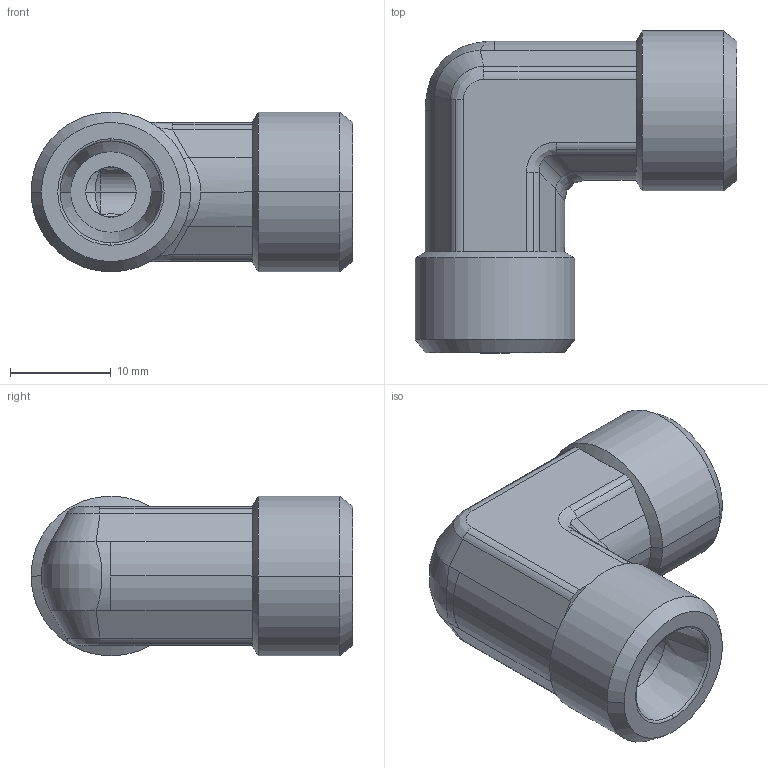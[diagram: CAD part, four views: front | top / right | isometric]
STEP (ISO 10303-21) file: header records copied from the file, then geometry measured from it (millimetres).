
FILE_DESCRIPTION((''),'2;1');
FILE_NAME('103815.stp','2007-10-31T11:52:36',(''),(''),'AutoCAD STEP 2000i','AutoCAD 2000i',', , ');
FILE_SCHEMA(('CONFIG_CONTROL_DESIGN'));
Length unit declared in the file: millimetre
Products named in the file (2): 103815.0; 3090#0
Assembly tree (1 placements, depth 2):
  103815.0
    3090#0
Bounding box: 31.93 x 31.93 x 15.85 mm (x, y, z)
Volume: 6728.4 mm3; surface area: 3449.4 mm2
Topology: 1 solids, 1 shells, 104 faces, 234 edges, 134 vertices
Faces by surface type: cylinder 44, plane 26, cone 20, bspline 14
Entity records: 3735 total; most frequent: CARTESIAN_POINT 1302, DIRECTION 526, ORIENTED_EDGE 468, EDGE_CURVE 234, AXIS2_PLACEMENT_3D 218, VERTEX_POINT 134, CIRCLE 108, EDGE_LOOP 108
